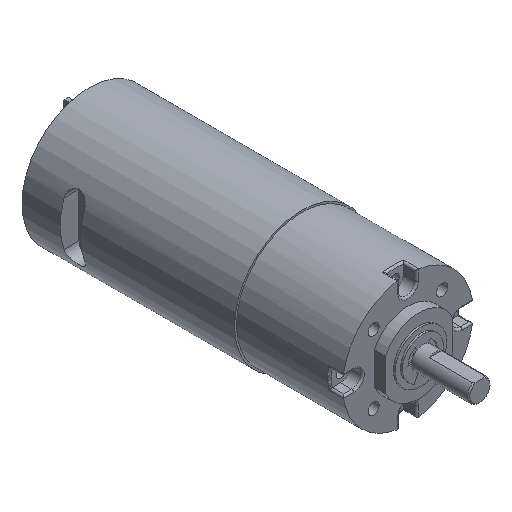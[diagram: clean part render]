
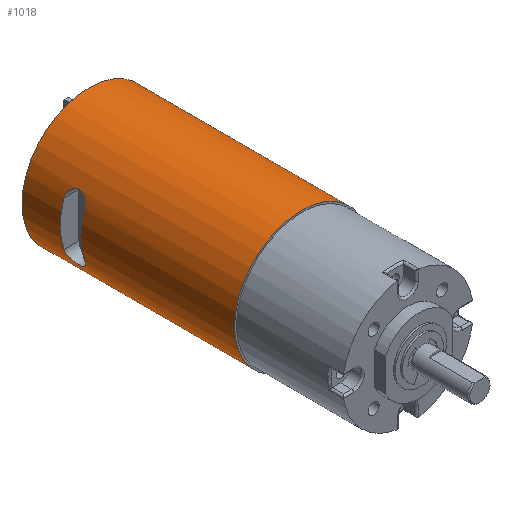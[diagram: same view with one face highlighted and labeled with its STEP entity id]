
A CAD part, isometric view. The second image highlights one B-rep face of the part: STEP entity #1018.
In plain terms, the highlighted cylindrical face has radius 18 mm (diameter 36 mm), a full revolution.
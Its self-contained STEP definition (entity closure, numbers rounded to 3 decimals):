
#73=CARTESIAN_POINT('',(-16.971,75.25,6.));
#74=VERTEX_POINT('',#73);
#75=CARTESIAN_POINT('',(-16.971,69.75,6.));
#76=VERTEX_POINT('',#75);
#77=CARTESIAN_POINT('',(-16.971,75.25,6.));
#78=CARTESIAN_POINT('',(-16.845,75.25,6.355));
#79=CARTESIAN_POINT('',(-16.699,75.177,6.73));
#80=CARTESIAN_POINT('',(-16.405,74.886,7.418));
#81=CARTESIAN_POINT('',(-16.258,74.667,7.731));
#82=CARTESIAN_POINT('',(-16.023,74.175,8.206));
#83=CARTESIAN_POINT('',(-15.916,73.875,8.408));
#84=CARTESIAN_POINT('',(-15.769,73.211,8.681));
#85=CARTESIAN_POINT('',(-15.73,72.846,8.75));
#86=CARTESIAN_POINT('',(-15.73,72.154,8.75));
#87=CARTESIAN_POINT('',(-15.769,71.789,8.681));
#88=CARTESIAN_POINT('',(-15.916,71.125,8.408));
#89=CARTESIAN_POINT('',(-16.023,70.825,8.206));
#90=CARTESIAN_POINT('',(-16.258,70.333,7.731));
#91=CARTESIAN_POINT('',(-16.405,70.114,7.418));
#92=CARTESIAN_POINT('',(-16.699,69.823,6.73));
#93=CARTESIAN_POINT('',(-16.845,69.75,6.355));
#94=CARTESIAN_POINT('',(-16.971,69.75,6.));
#95=B_SPLINE_CURVE_WITH_KNOTS('',3,(#77,#78,#79,#80,#81,#82,#83,#84,#85,#86,#87,#88,#89,#90,#91,#92,#93,#94),.UNSPECIFIED.,.F.,.U.,(4,2,2,2,2,2,2,2,4),(0.423,0.536,0.649,0.753,0.856,0.96,1.064,1.177,1.29),.UNSPECIFIED.);
#96=EDGE_CURVE('',#74,#76,#95,.T.);
#129=CARTESIAN_POINT('',(-16.971,69.75,-6.));
#130=VERTEX_POINT('',#129);
#131=CARTESIAN_POINT('',(0.0,69.75,0.0));
#132=DIRECTION('',(0.0,-1.0,0.0));
#133=DIRECTION('',(-1.0,0.0,0.0));
#134=AXIS2_PLACEMENT_3D('',#131,#132,#133);
#135=CIRCLE('',#134,18.0);
#136=EDGE_CURVE('',#76,#130,#135,.T.);
#161=CARTESIAN_POINT('',(-16.971,75.25,-6.));
#162=VERTEX_POINT('',#161);
#163=CARTESIAN_POINT('',(0.0,75.25,0.0));
#164=DIRECTION('',(0.0,1.0,0.0));
#165=DIRECTION('',(-1.0,0.0,0.0));
#166=AXIS2_PLACEMENT_3D('',#163,#164,#165);
#167=CIRCLE('',#166,18.0);
#168=EDGE_CURVE('',#162,#74,#167,.T.);
#193=CARTESIAN_POINT('',(-16.971,69.75,-6.));
#194=CARTESIAN_POINT('',(-16.845,69.75,-6.355));
#195=CARTESIAN_POINT('',(-16.699,69.823,-6.73));
#196=CARTESIAN_POINT('',(-16.405,70.114,-7.418));
#197=CARTESIAN_POINT('',(-16.258,70.333,-7.731));
#198=CARTESIAN_POINT('',(-16.023,70.825,-8.206));
#199=CARTESIAN_POINT('',(-15.916,71.125,-8.408));
#200=CARTESIAN_POINT('',(-15.769,71.789,-8.681));
#201=CARTESIAN_POINT('',(-15.73,72.154,-8.75));
#202=CARTESIAN_POINT('',(-15.73,72.5,-8.75));
#203=CARTESIAN_POINT('',(-15.73,72.846,-8.75));
#204=CARTESIAN_POINT('',(-15.769,73.211,-8.681));
#205=CARTESIAN_POINT('',(-15.916,73.875,-8.408));
#206=CARTESIAN_POINT('',(-16.023,74.175,-8.206));
#207=CARTESIAN_POINT('',(-16.258,74.667,-7.731));
#208=CARTESIAN_POINT('',(-16.405,74.886,-7.418));
#209=CARTESIAN_POINT('',(-16.699,75.177,-6.73));
#210=CARTESIAN_POINT('',(-16.845,75.25,-6.355));
#211=CARTESIAN_POINT('',(-16.971,75.25,-6.0));
#212=B_SPLINE_CURVE_WITH_KNOTS('',3,(#193,#194,#195,#196,#197,#198,#199,#200,#201,#202,#203,#204,#205,#206,#207,#208,#209,#210,#211),.UNSPECIFIED.,.F.,.U.,(4,2,2,2,3,2,2,2,4),(-0.434,-0.321,-0.208,-0.104,0.0,0.104,0.208,0.321,0.434),.UNSPECIFIED.);
#213=EDGE_CURVE('',#130,#162,#212,.T.);
#244=CARTESIAN_POINT('',(16.971,69.75,6.));
#245=VERTEX_POINT('',#244);
#246=CARTESIAN_POINT('',(16.971,75.25,6.));
#247=VERTEX_POINT('',#246);
#248=CARTESIAN_POINT('',(16.971,69.75,6.));
#249=CARTESIAN_POINT('',(16.845,69.75,6.355));
#250=CARTESIAN_POINT('',(16.699,69.823,6.73));
#251=CARTESIAN_POINT('',(16.405,70.114,7.418));
#252=CARTESIAN_POINT('',(16.258,70.333,7.731));
#253=CARTESIAN_POINT('',(16.023,70.825,8.206));
#254=CARTESIAN_POINT('',(15.916,71.125,8.408));
#255=CARTESIAN_POINT('',(15.769,71.789,8.681));
#256=CARTESIAN_POINT('',(15.73,72.154,8.75));
#257=CARTESIAN_POINT('',(15.73,72.5,8.75));
#258=CARTESIAN_POINT('',(15.73,72.846,8.75));
#259=CARTESIAN_POINT('',(15.769,73.211,8.681));
#260=CARTESIAN_POINT('',(15.916,73.875,8.408));
#261=CARTESIAN_POINT('',(16.023,74.175,8.206));
#262=CARTESIAN_POINT('',(16.258,74.667,7.731));
#263=CARTESIAN_POINT('',(16.405,74.886,7.418));
#264=CARTESIAN_POINT('',(16.699,75.177,6.73));
#265=CARTESIAN_POINT('',(16.845,75.25,6.355));
#266=CARTESIAN_POINT('',(16.971,75.25,6.));
#267=B_SPLINE_CURVE_WITH_KNOTS('',3,(#248,#249,#250,#251,#252,#253,#254,#255,#256,#257,#258,#259,#260,#261,#262,#263,#264,#265,#266),.UNSPECIFIED.,.F.,.U.,(4,2,2,2,3,2,2,2,4),(-0.434,-0.321,-0.208,-0.104,0.0,0.104,0.208,0.321,0.434),.UNSPECIFIED.);
#268=EDGE_CURVE('',#245,#247,#267,.T.);
#301=CARTESIAN_POINT('',(16.971,75.25,-6.));
#302=VERTEX_POINT('',#301);
#303=CARTESIAN_POINT('',(0.0,75.25,0.0));
#304=DIRECTION('',(0.0,1.0,0.0));
#305=DIRECTION('',(-1.0,0.0,0.0));
#306=AXIS2_PLACEMENT_3D('',#303,#304,#305);
#307=CIRCLE('',#306,18.0);
#308=EDGE_CURVE('',#247,#302,#307,.T.);
#333=CARTESIAN_POINT('',(16.971,69.75,-6.));
#334=VERTEX_POINT('',#333);
#335=CARTESIAN_POINT('',(0.0,69.75,0.0));
#336=DIRECTION('',(0.0,-1.0,0.0));
#337=DIRECTION('',(-1.0,0.0,0.0));
#338=AXIS2_PLACEMENT_3D('',#335,#336,#337);
#339=CIRCLE('',#338,18.0);
#340=EDGE_CURVE('',#334,#245,#339,.T.);
#365=CARTESIAN_POINT('',(16.971,75.25,-6.));
#366=CARTESIAN_POINT('',(16.845,75.25,-6.355));
#367=CARTESIAN_POINT('',(16.699,75.177,-6.73));
#368=CARTESIAN_POINT('',(16.405,74.886,-7.418));
#369=CARTESIAN_POINT('',(16.258,74.667,-7.731));
#370=CARTESIAN_POINT('',(16.023,74.175,-8.206));
#371=CARTESIAN_POINT('',(15.916,73.875,-8.408));
#372=CARTESIAN_POINT('',(15.769,73.211,-8.681));
#373=CARTESIAN_POINT('',(15.73,72.846,-8.75));
#374=CARTESIAN_POINT('',(15.73,72.154,-8.75));
#375=CARTESIAN_POINT('',(15.769,71.789,-8.681));
#376=CARTESIAN_POINT('',(15.916,71.125,-8.408));
#377=CARTESIAN_POINT('',(16.023,70.825,-8.206));
#378=CARTESIAN_POINT('',(16.258,70.333,-7.731));
#379=CARTESIAN_POINT('',(16.405,70.114,-7.418));
#380=CARTESIAN_POINT('',(16.699,69.823,-6.73));
#381=CARTESIAN_POINT('',(16.845,69.75,-6.355));
#382=CARTESIAN_POINT('',(16.971,69.75,-6.));
#383=B_SPLINE_CURVE_WITH_KNOTS('',3,(#365,#366,#367,#368,#369,#370,#371,#372,#373,#374,#375,#376,#377,#378,#379,#380,#381,#382),.UNSPECIFIED.,.F.,.U.,(4,2,2,2,2,2,2,2,4),(0.423,0.536,0.649,0.753,0.856,0.96,1.064,1.177,1.29),.UNSPECIFIED.);
#384=EDGE_CURVE('',#302,#334,#383,.T.);
#964=CARTESIAN_POINT('',(18.0,28.5,0.));
#965=VERTEX_POINT('',#964);
#966=CARTESIAN_POINT('',(0.0,28.5,0.0));
#967=DIRECTION('',(0.0,-1.0,0.0));
#968=DIRECTION('',(-1.0,0.0,0.0));
#969=AXIS2_PLACEMENT_3D('',#966,#967,#968);
#970=CIRCLE('',#969,18.0);
#971=EDGE_CURVE('',#965,#965,#970,.T.);
#987=CARTESIAN_POINT('',(0.0,28.5,0.0));
#988=DIRECTION('',(0.0,1.0,0.0));
#989=DIRECTION('',(-1.0,0.0,0.0));
#990=AXIS2_PLACEMENT_3D('',#987,#988,#989);
#991=CYLINDRICAL_SURFACE('',#990,18.0);
#992=CARTESIAN_POINT('',(18.0,85.5,0.));
#993=VERTEX_POINT('',#992);
#994=CARTESIAN_POINT('',(0.0,85.5,0.0));
#995=DIRECTION('',(0.0,-1.0,0.0));
#996=DIRECTION('',(-1.0,0.0,0.0));
#997=AXIS2_PLACEMENT_3D('',#994,#995,#996);
#998=CIRCLE('',#997,18.0);
#999=EDGE_CURVE('',#993,#993,#998,.T.);
#1000=ORIENTED_EDGE('',*,*,#999,.T.);
#1001=EDGE_LOOP('',(#1000));
#1002=FACE_OUTER_BOUND('',#1001,.T.);
#1003=ORIENTED_EDGE('',*,*,#136,.T.);
#1004=ORIENTED_EDGE('',*,*,#213,.T.);
#1005=ORIENTED_EDGE('',*,*,#168,.T.);
#1006=ORIENTED_EDGE('',*,*,#96,.T.);
#1007=EDGE_LOOP('',(#1003,#1004,#1005,#1006));
#1008=FACE_BOUND('',#1007,.T.);
#1009=ORIENTED_EDGE('',*,*,#308,.T.);
#1010=ORIENTED_EDGE('',*,*,#384,.T.);
#1011=ORIENTED_EDGE('',*,*,#340,.T.);
#1012=ORIENTED_EDGE('',*,*,#268,.T.);
#1013=EDGE_LOOP('',(#1009,#1010,#1011,#1012));
#1014=FACE_BOUND('',#1013,.T.);
#1015=ORIENTED_EDGE('',*,*,#971,.F.);
#1016=EDGE_LOOP('',(#1015));
#1017=FACE_BOUND('',#1016,.T.);
#1018=ADVANCED_FACE('',(#1002,#1008,#1014,#1017),#991,.T.);
